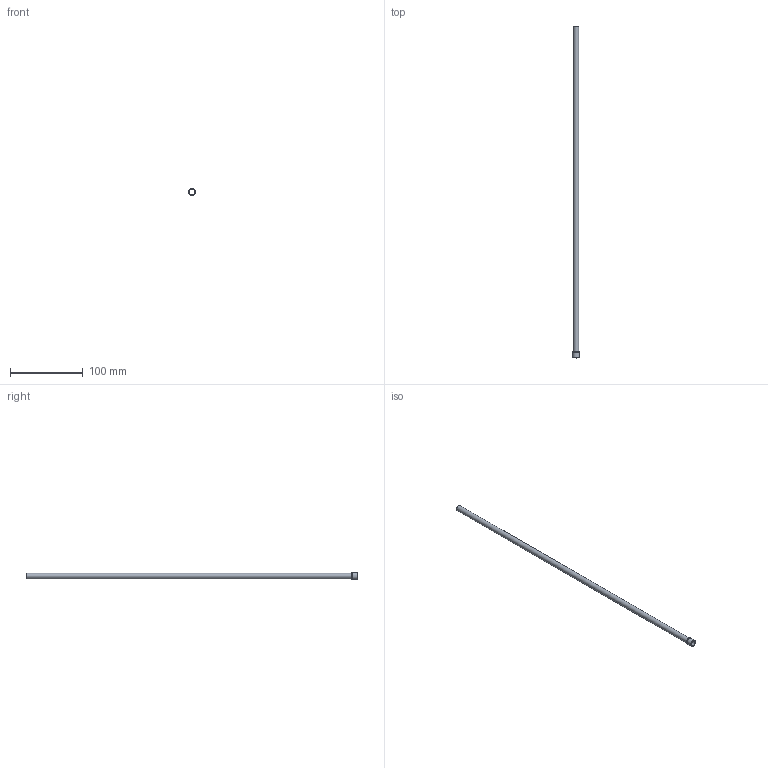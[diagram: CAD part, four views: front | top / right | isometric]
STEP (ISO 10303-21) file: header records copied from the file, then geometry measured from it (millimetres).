
FILE_DESCRIPTION(/* description */ (''),/* implementation_level */ '2;1');
FILE_NAME(/* name */ 'C:/Users/drich/Desktop/HF312T-18 v1.step',/* time_stamp */ '2019-12-30T13:30:22-06:00',/* author */ (''),/* organization */ (''),/* preprocessor_version */ 'ST-DEVELOPER v18',/* originating_system */ 'Autodesk Translation Framework v8.12.0.6',/* authorisation */ '');
FILE_SCHEMA (('AUTOMOTIVE_DESIGN { 1 0 10303 214 3 1 1 }'));
Length unit declared in the file: inch
Products named in the file (1): HF312T-18
Bounding box: 9.58 x 457.2 x 9.58 mm (x, y, z)
Volume: 3522.3 mm3; surface area: 21980.5 mm2
Topology: 1 solids, 1 shells, 12 faces, 30 edges, 22 vertices
Faces by surface type: plane 4, cylinder 4, torus 3, cone 1
Full cylindrical faces by diameter (mm): 7.315 x1, 7.925 x1, 9.406 x1, 9.576 x1
Entity records: 426 total; most frequent: DIRECTION 81, CARTESIAN_POINT 65, ORIENTED_EDGE 60, AXIS2_PLACEMENT_3D 38, EDGE_CURVE 30, CIRCLE 25, VERTEX_POINT 22, EDGE_LOOP 16
